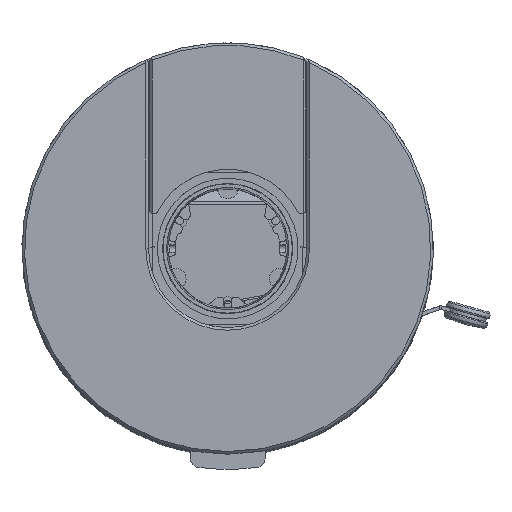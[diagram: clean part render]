
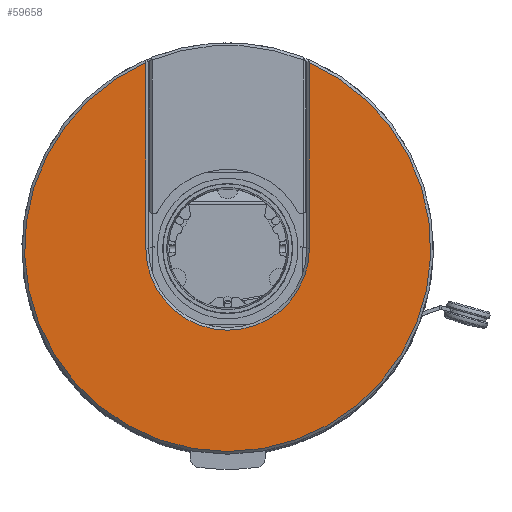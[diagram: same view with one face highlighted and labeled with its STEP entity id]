
A CAD part, top view. The second image highlights one B-rep face of the part: STEP entity #59658.
In plain terms, the highlighted planar face has unit normal (0, 0, 1).
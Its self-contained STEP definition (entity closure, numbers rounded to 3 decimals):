
#4538=FACE_OUTER_BOUND('',#7834,.T.);
#7834=EDGE_LOOP('',(#49966,#49967,#49968,#49969));
#13360=LINE('',#102715,#19161);
#13364=LINE('',#102725,#19165);
#19161=VECTOR('',#79177,10.);
#19165=VECTOR('',#79189,10.);
#21641=CIRCLE('',#64550,231.);
#21643=CIRCLE('',#64554,93.);
#26577=VERTEX_POINT('',#102694);
#26580=VERTEX_POINT('',#102703);
#26582=VERTEX_POINT('',#102713);
#26584=VERTEX_POINT('',#102719);
#34455=EDGE_CURVE('',#26577,#26580,#21641,.T.);
#34458=EDGE_CURVE('',#26582,#26577,#13360,.T.);
#34461=EDGE_CURVE('',#26584,#26582,#21643,.T.);
#34464=EDGE_CURVE('',#26580,#26584,#13364,.T.);
#49966=ORIENTED_EDGE('',*,*,#34455,.F.);
#49967=ORIENTED_EDGE('',*,*,#34458,.F.);
#49968=ORIENTED_EDGE('',*,*,#34461,.F.);
#49969=ORIENTED_EDGE('',*,*,#34464,.F.);
#53608=PLANE('',#64560);
#59658=ADVANCED_FACE('',(#4538),#53608,.T.);
#64550=AXIS2_PLACEMENT_3D('',#102709,#79170,#79171);
#64554=AXIS2_PLACEMENT_3D('',#102721,#79182,#79183);
#64560=AXIS2_PLACEMENT_3D('',#102742,#79205,#79206);
#79170=DIRECTION('center_axis',(0.,0.,
-1.));
#79171=DIRECTION('ref_axis',(1.,0.,0.));
#79177=DIRECTION('',(0.,1.,0.));
#79182=DIRECTION('center_axis',(0.,0.,
1.));
#79183=DIRECTION('ref_axis',(1.,0.,0.));
#79189=DIRECTION('',(0.,-1.,0.));
#79205=DIRECTION('center_axis',(0.,0.,
1.));
#79206=DIRECTION('ref_axis',(1.,0.,0.));
#102694=CARTESIAN_POINT('',(93.,211.452,410.5));
#102703=CARTESIAN_POINT('',(-93.,211.452,410.5));
#102709=CARTESIAN_POINT('Origin',(0.,0.,
410.5));
#102713=CARTESIAN_POINT('',(93.,0.,410.5));
#102715=CARTESIAN_POINT('',(93.,150.,410.5));
#102719=CARTESIAN_POINT('',(-93.,0.,410.5));
#102721=CARTESIAN_POINT('Origin',(0.,0.,
410.5));
#102725=CARTESIAN_POINT('',(-93.,0.,410.5));
#102742=CARTESIAN_POINT('Origin',(0.,0.,
410.5));
